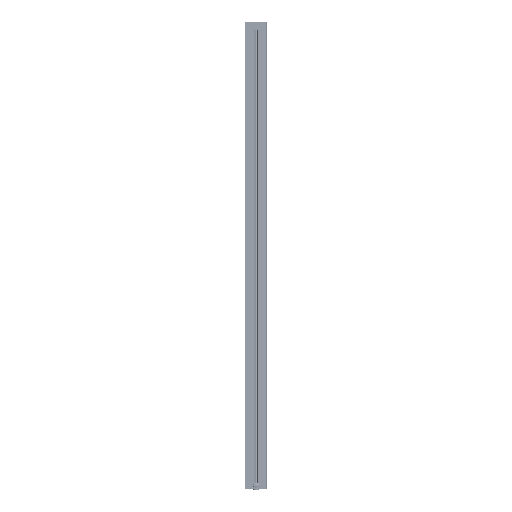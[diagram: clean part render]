
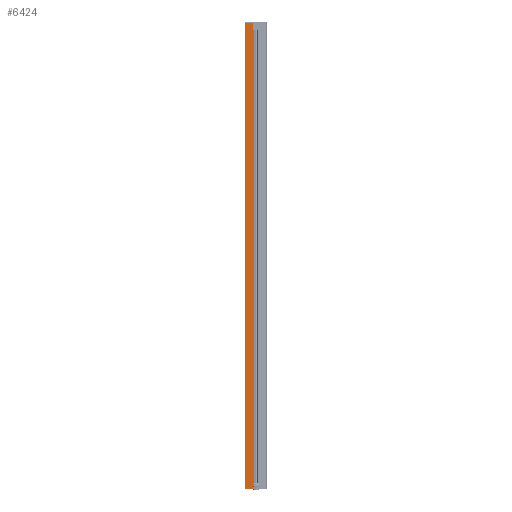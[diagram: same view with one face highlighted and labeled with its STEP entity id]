
A CAD part, left-side view. The second image highlights one B-rep face of the part: STEP entity #6424.
In plain terms, the highlighted planar face has unit normal (-1, 0, 0).
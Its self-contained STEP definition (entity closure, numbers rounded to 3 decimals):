
#1323 = LINE ( 'NONE', #4201, #6109 ) ;
#1780 = EDGE_LOOP ( 'NONE', ( #39027, #30759, #8311, #14652, #36496, #15469, #18763, #6931 ) ) ;
#3555 = CARTESIAN_POINT ( 'NONE',  ( -16., 13.85, -987.3 ) ) ;
#3811 = LINE ( 'NONE', #31989, #32859 ) ;
#4201 = CARTESIAN_POINT ( 'NONE',  ( -16., 13.85, -1017. ) ) ;
#4860 = VECTOR ( 'NONE', #6441, 1000. ) ;
#5727 = EDGE_CURVE ( 'NONE', #24134, #25303, #8527, .T. ) ;
#6109 = VECTOR ( 'NONE', #35483, 1000. ) ;
#6424 = ADVANCED_FACE ( 'NONE', ( #26331 ), #13787, .F. ) ;
#6441 = DIRECTION ( 'NONE',  ( 0., -1., 0. ) ) ;
#6667 = CARTESIAN_POINT ( 'NONE',  ( -16., 8.487, -1016.9 ) ) ;
#6831 = LINE ( 'NONE', #19377, #10857 ) ;
#6931 = ORIENTED_EDGE ( 'NONE', *, *, #7172, .T. ) ;
#7172 = EDGE_CURVE ( 'NONE', #25303, #22960, #22283, .T. ) ;
#7755 = CARTESIAN_POINT ( 'NONE',  ( -16., 13.85, 1017. ) ) ;
#8311 = ORIENTED_EDGE ( 'NONE', *, *, #13114, .T. ) ;
#8527 = LINE ( 'NONE', #33626, #38150 ) ;
#9119 = VERTEX_POINT ( 'NONE', #38240 ) ;
#9488 = VERTEX_POINT ( 'NONE', #34316 ) ;
#9780 = CARTESIAN_POINT ( 'NONE',  ( -16., 8.776, -987.3 ) ) ;
#9962 = EDGE_CURVE ( 'NONE', #22960, #20084, #1323, .T. ) ;
#10857 = VECTOR ( 'NONE', #22248, 1000. ) ;
#10893 = DIRECTION ( 'NONE',  ( 1., 0., 0. ) ) ;
#11243 = EDGE_CURVE ( 'NONE', #20084, #23541, #22465, .T. ) ;
#12862 = VECTOR ( 'NONE', #26680, 1000. ) ;
#12919 = CARTESIAN_POINT ( 'NONE',  ( -16., 13.85, 987.3 ) ) ;
#13114 = EDGE_CURVE ( 'NONE', #23541, #23794, #6831, .T. ) ;
#13643 = DIRECTION ( 'NONE',  ( 0., -1., 0. ) ) ;
#13787 = PLANE ( 'NONE',  #33586 ) ;
#14652 = ORIENTED_EDGE ( 'NONE', *, *, #35208, .F. ) ;
#15469 = ORIENTED_EDGE ( 'NONE', *, *, #23522, .F. ) ;
#16670 = DIRECTION ( 'NONE',  ( 0., 1., 0. ) ) ;
#18763 = ORIENTED_EDGE ( 'NONE', *, *, #5727, .T. ) ;
#19377 = CARTESIAN_POINT ( 'NONE',  ( -16., 8.776, 1017. ) ) ;
#20084 = VERTEX_POINT ( 'NONE', #21532 ) ;
#20966 = CARTESIAN_POINT ( 'NONE',  ( -16., 46.5, -1016.9 ) ) ;
#21462 = CARTESIAN_POINT ( 'NONE',  ( -16., 8.776, 987.3 ) ) ;
#21532 = CARTESIAN_POINT ( 'NONE',  ( -16., 13.85, -987.3 ) ) ;
#22248 = DIRECTION ( 'NONE',  ( 0., 0., 1. ) ) ;
#22283 = LINE ( 'NONE', #6667, #24434 ) ;
#22465 = LINE ( 'NONE', #3555, #4860 ) ;
#22960 = VERTEX_POINT ( 'NONE', #24205 ) ;
#23522 = EDGE_CURVE ( 'NONE', #24134, #9119, #3811, .T. ) ;
#23541 = VERTEX_POINT ( 'NONE', #9780 ) ;
#23794 = VERTEX_POINT ( 'NONE', #21462 ) ;
#23950 = DIRECTION ( 'NONE',  ( 0., 0., -1. ) ) ;
#24134 = VERTEX_POINT ( 'NONE', #35595 ) ;
#24205 = CARTESIAN_POINT ( 'NONE',  ( -16., 13.85, -1016.9 ) ) ;
#24434 = VECTOR ( 'NONE', #13643, 1000. ) ;
#25303 = VERTEX_POINT ( 'NONE', #20966 ) ;
#26072 = LINE ( 'NONE', #12919, #40498 ) ;
#26331 = FACE_OUTER_BOUND ( 'NONE', #1780, .T. ) ;
#26680 = DIRECTION ( 'NONE',  ( 0., 0., -1. ) ) ;
#30759 = ORIENTED_EDGE ( 'NONE', *, *, #11243, .T. ) ;
#31989 = CARTESIAN_POINT ( 'NONE',  ( -16., 8.487, 1017. ) ) ;
#32859 = VECTOR ( 'NONE', #37957, 1000. ) ;
#33586 = AXIS2_PLACEMENT_3D ( 'NONE', #38466, #10893, #16670 ) ;
#33626 = CARTESIAN_POINT ( 'NONE',  ( -16., 46.5, 1017. ) ) ;
#34028 = EDGE_CURVE ( 'NONE', #9119, #9488, #35736, .T. ) ;
#34316 = CARTESIAN_POINT ( 'NONE',  ( -16., 13.85, 987.3 ) ) ;
#35208 = EDGE_CURVE ( 'NONE', #9488, #23794, #26072, .T. ) ;
#35483 = DIRECTION ( 'NONE',  ( 0., 0., 1. ) ) ;
#35595 = CARTESIAN_POINT ( 'NONE',  ( -16., 46.5, 1017. ) ) ;
#35736 = LINE ( 'NONE', #7755, #12862 ) ;
#36496 = ORIENTED_EDGE ( 'NONE', *, *, #34028, .F. ) ;
#37814 = DIRECTION ( 'NONE',  ( 0., -1., 0. ) ) ;
#37957 = DIRECTION ( 'NONE',  ( 0., -1., 0. ) ) ;
#38150 = VECTOR ( 'NONE', #23950, 1000. ) ;
#38240 = CARTESIAN_POINT ( 'NONE',  ( -16., 13.85, 1017. ) ) ;
#38466 = CARTESIAN_POINT ( 'NONE',  ( -16., 8.487, 1017. ) ) ;
#39027 = ORIENTED_EDGE ( 'NONE', *, *, #9962, .T. ) ;
#40498 = VECTOR ( 'NONE', #37814, 1000. ) ;
